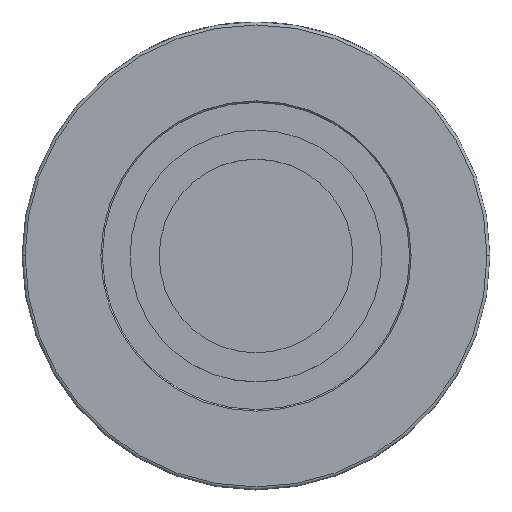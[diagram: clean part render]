
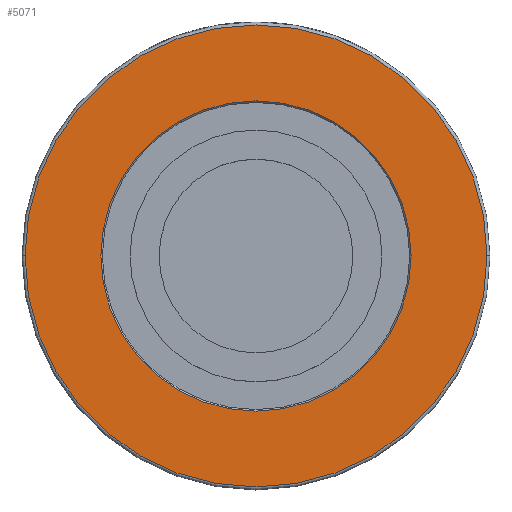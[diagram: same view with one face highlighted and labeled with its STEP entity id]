
A CAD part, top view. The second image highlights one B-rep face of the part: STEP entity #5071.
In plain terms, the highlighted planar face has unit normal (0, 0, 1).
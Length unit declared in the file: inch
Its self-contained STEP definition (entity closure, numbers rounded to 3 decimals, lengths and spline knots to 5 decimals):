
#1192=VERTEX_POINT('',#6289);
#1193=VERTEX_POINT('',#6291);
#1200=VERTEX_POINT('',#6307);
#1201=VERTEX_POINT('',#6309);
#1742=CIRCLE('',#29954,0.5205);
#1749=CIRCLE('',#29963,0.775);
#1798=CIRCLE('',#30042,0.5205);
#1799=CIRCLE('',#30043,0.775);
#1866=EDGE_CURVE('',#1193,#1192,#1742,.T.);
#1874=EDGE_CURVE('',#1201,#1200,#1749,.T.);
#2127=EDGE_CURVE('',#1192,#1193,#1798,.F.);
#2128=EDGE_CURVE('',#1200,#1201,#1799,.T.);
#2974=ORIENTED_EDGE('',*,*,#1866,.T.);
#2975=ORIENTED_EDGE('',*,*,#2127,.T.);
#2976=ORIENTED_EDGE('',*,*,#1874,.T.);
#2977=ORIENTED_EDGE('',*,*,#2128,.T.);
#4380=EDGE_LOOP('',(#2974,#2975));
#4381=EDGE_LOOP('',(#2976,#2977));
#4744=FACE_BOUND('',#4380,.T.);
#4745=FACE_BOUND('',#4381,.T.);
#5071=ADVANCED_FACE('',(#4744,#4745),#5373,.T.);
#5373=PLANE('',#30041);
#5548=DIRECTION('',(0.,0.,-1.));
#5549=DIRECTION('',(0.521,0.,0.));
#5565=DIRECTION('',(0.,0.,1.));
#5566=DIRECTION('',(0.775,0.,0.));
#5772=DIRECTION('',(0.,0.,1.));
#5773=DIRECTION('',(0.,0.,1.));
#5774=DIRECTION('',(0.521,0.,0.));
#5775=DIRECTION('',(0.,0.,1.));
#5776=DIRECTION('',(0.775,0.,0.));
#6289=CARTESIAN_POINT('',(-0.5205,0.,0.));
#6290=CARTESIAN_POINT('',(0.,0.,0.));
#6291=CARTESIAN_POINT('',(0.5205,0.,0.));
#6307=CARTESIAN_POINT('',(-0.775,0.,0.));
#6308=CARTESIAN_POINT('',(0.,0.,0.));
#6309=CARTESIAN_POINT('',(0.775,0.,0.));
#8358=CARTESIAN_POINT('',(0.5155,0.,0.));
#8359=CARTESIAN_POINT('',(0.,0.,0.));
#8360=CARTESIAN_POINT('',(0.,0.,0.));
#29954=AXIS2_PLACEMENT_3D('',#6290,#5548,#5549);
#29963=AXIS2_PLACEMENT_3D('',#6308,#5565,#5566);
#30041=AXIS2_PLACEMENT_3D('',#8358,#5772,$);
#30042=AXIS2_PLACEMENT_3D('',#8359,#5773,#5774);
#30043=AXIS2_PLACEMENT_3D('',#8360,#5775,#5776);
